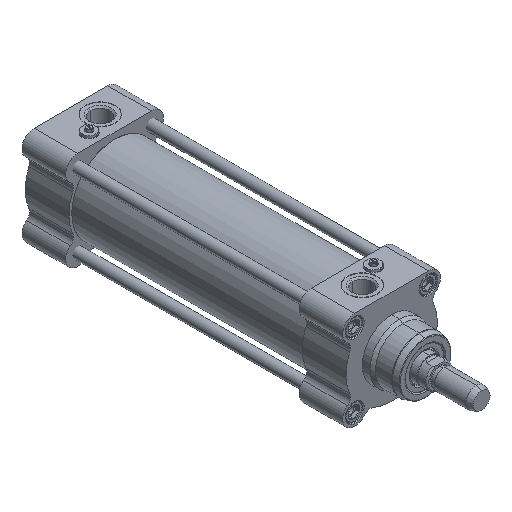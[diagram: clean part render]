
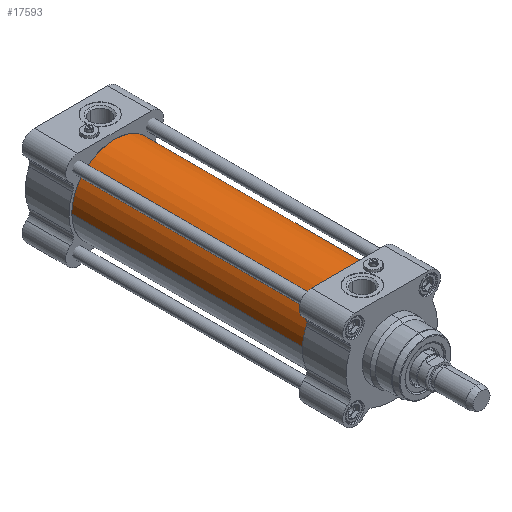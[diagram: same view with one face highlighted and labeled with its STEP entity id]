
A CAD part, isometric view. The second image highlights one B-rep face of the part: STEP entity #17593.
In plain terms, the highlighted cylindrical face has radius 33 mm (diameter 66 mm), a partial arc.
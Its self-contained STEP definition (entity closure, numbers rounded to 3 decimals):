
#318 = LINE ( 'NONE', #20522, #21394 ) ;
#345 = VECTOR ( 'NONE', #563, 1000. ) ;
#563 = DIRECTION ( 'NONE',  ( 0., 1., 0. ) ) ;
#690 = CARTESIAN_POINT ( 'NONE',  ( 0., 0., 0. ) ) ;
#3095 = VERTEX_POINT ( 'NONE', #10345 ) ;
#3972 = CYLINDRICAL_SURFACE ( 'NONE', #7007, 33. ) ;
#4539 = VERTEX_POINT ( 'NONE', #15926 ) ;
#4561 = DIRECTION ( 'NONE',  ( 0., 1., 0. ) ) ;
#5136 = EDGE_CURVE ( 'NONE', #3095, #15220, #318, .T. ) ;
#5266 = EDGE_CURVE ( 'NONE', #4539, #15220, #22550, .T. ) ;
#6177 = CARTESIAN_POINT ( 'NONE',  ( 0., -89.3, 0. ) ) ;
#7007 = AXIS2_PLACEMENT_3D ( 'NONE', #690, #7867, #11757 ) ;
#7867 = DIRECTION ( 'NONE',  ( 0., 1., 0. ) ) ;
#8095 = DIRECTION ( 'NONE',  ( 0., -1., 0. ) ) ;
#9177 = ORIENTED_EDGE ( 'NONE', *, *, #22392, .F. ) ;
#9322 = CARTESIAN_POINT ( 'NONE',  ( -33., 0., 0. ) ) ;
#10027 = CARTESIAN_POINT ( 'NONE',  ( 0., 89.3, 0. ) ) ;
#10345 = CARTESIAN_POINT ( 'NONE',  ( 33., -89.3, 0. ) ) ;
#10763 = EDGE_LOOP ( 'NONE', ( #9177, #12074, #13695, #13910 ) ) ;
#10906 = CIRCLE ( 'NONE', #17125, 33. ) ;
#11757 = DIRECTION ( 'NONE',  ( 1., 0., 0. ) ) ;
#12074 = ORIENTED_EDGE ( 'NONE', *, *, #12700, .F. ) ;
#12700 = EDGE_CURVE ( 'NONE', #3095, #19921, #10906, .T. ) ;
#13695 = ORIENTED_EDGE ( 'NONE', *, *, #5136, .T. ) ;
#13910 = ORIENTED_EDGE ( 'NONE', *, *, #5266, .F. ) ;
#15220 = VERTEX_POINT ( 'NONE', #20300 ) ;
#15646 = DIRECTION ( 'NONE',  ( 1., 0., 0. ) ) ;
#15926 = CARTESIAN_POINT ( 'NONE',  ( -33., 89.3, 0. ) ) ;
#17125 = AXIS2_PLACEMENT_3D ( 'NONE', #6177, #8095, #17349 ) ;
#17349 = DIRECTION ( 'NONE',  ( 1., 0., 0. ) ) ;
#17593 = ADVANCED_FACE ( 'NONE', ( #22601 ), #3972, .T. ) ;
#19187 = DIRECTION ( 'NONE',  ( 0., 1., 0. ) ) ;
#19341 = CARTESIAN_POINT ( 'NONE',  ( -33., -89.3, 0. ) ) ;
#19921 = VERTEX_POINT ( 'NONE', #19341 ) ;
#20300 = CARTESIAN_POINT ( 'NONE',  ( 33., 89.3, 0. ) ) ;
#20522 = CARTESIAN_POINT ( 'NONE',  ( 33., 0., 0. ) ) ;
#20596 = AXIS2_PLACEMENT_3D ( 'NONE', #10027, #4561, #15646 ) ;
#21394 = VECTOR ( 'NONE', #19187, 1000. ) ;
#22392 = EDGE_CURVE ( 'NONE', #19921, #4539, #22593, .T. ) ;
#22550 = CIRCLE ( 'NONE', #20596, 33. ) ;
#22593 = LINE ( 'NONE', #9322, #345 ) ;
#22601 = FACE_OUTER_BOUND ( 'NONE', #10763, .T. ) ;
